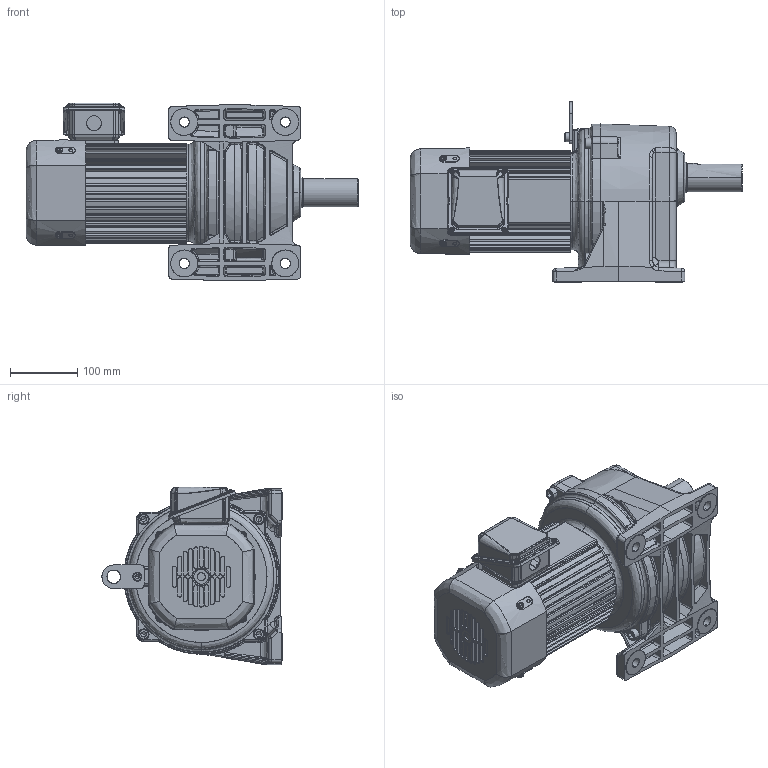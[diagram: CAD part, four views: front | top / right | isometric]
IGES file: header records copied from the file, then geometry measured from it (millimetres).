
Start section: SolidWorks IGES file using analytic representation for surfaces
Global section: file name: \\100.100.100.8\1_共有作業フォルダ\1-5_３Ｄデータ\solidworks\personal-folder\H.Nagayama\SGP1外形075~370\P1(3D)_075~370\igs\TML2-08E-(100~200).IGS; native system: SolidWorks 2018; preprocessor: SolidWorks 2018; author: sigma-giken; date: 200806.161858; units: millimetre
Bounding box: 493 x 267.5 x 264.2 mm (x, y, z)
Surface area: 763549.3 mm2 (no closed solid volume)
Topology: 0 solids, 0 shells, 1943 faces, 23588 edges, 23535 vertices
Faces by surface type: bspline 1035, revolution 908
